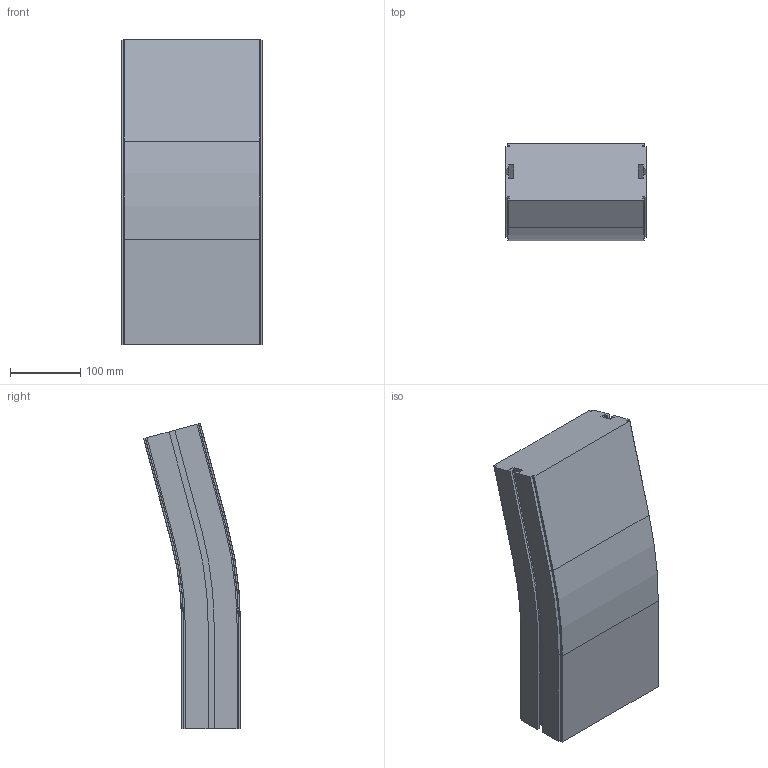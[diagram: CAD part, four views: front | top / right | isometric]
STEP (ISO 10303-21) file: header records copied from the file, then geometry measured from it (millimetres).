
FILE_DESCRIPTION (( 'STEP AP214' ), '1' );
FILE_NAME ('CS SL Verticaalbocht.200 15°.STEP', '2017-02-08T07:37:35', ( '' ), ( '' ), 'SwSTEP 2.0', 'SolidWorks 2016', '' );
FILE_SCHEMA (( 'AUTOMOTIVE_DESIGN' ));
Length unit declared in the file: millimetre
Products named in the file (1): CS SL Verticaalbocht.200 15°
Bounding box: 200 x 138.43 x 435.17 mm (x, y, z)
Volume: 7051514.1 mm3; surface area: 323138.3 mm2
Topology: 1 solids, 1 shells, 98 faces, 272 edges, 176 vertices
Faces by surface type: plane 72, cylinder 18, cone 8
Entity records: 3126 total; most frequent: CARTESIAN_POINT 547, ORIENTED_EDGE 544, DIRECTION 514, EDGE_CURVE 272, LINE 228, VECTOR 228, VERTEX_POINT 176, AXIS2_PLACEMENT_3D 143
